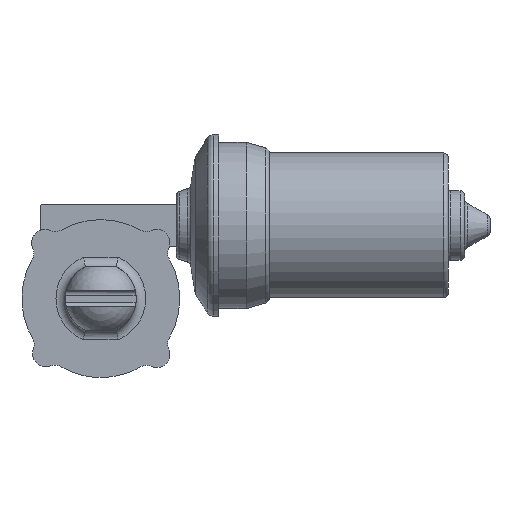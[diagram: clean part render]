
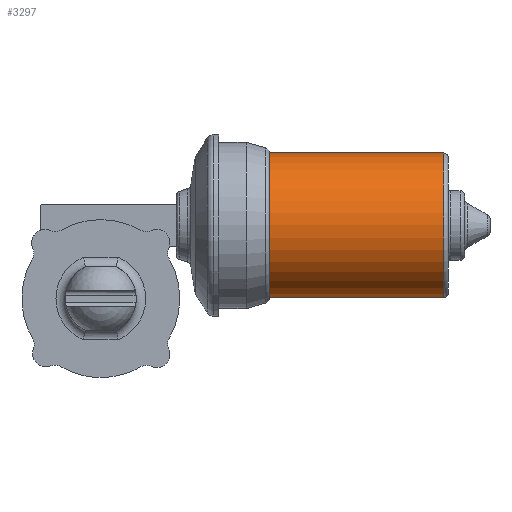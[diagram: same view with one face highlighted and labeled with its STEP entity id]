
A CAD part, left-side view. The second image highlights one B-rep face of the part: STEP entity #3297.
In plain terms, the highlighted cylindrical face has radius 30.75 mm (diameter 61.5 mm), a full revolution.
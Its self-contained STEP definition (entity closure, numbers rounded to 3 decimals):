
#190=CYLINDRICAL_SURFACE('',#3699,30.75);
#376=CIRCLE('',#3698,30.75);
#377=CIRCLE('',#3700,30.75);
#1290=ORIENTED_EDGE('',*,*,#1767,.F.);
#1291=ORIENTED_EDGE('',*,*,#1766,.T.);
#1766=EDGE_CURVE('',#2081,#2081,#376,.T.);
#1767=EDGE_CURVE('',#2082,#2082,#377,.T.);
#2081=VERTEX_POINT('',#5838);
#2082=VERTEX_POINT('',#5841);
#2754=EDGE_LOOP('',(#1290));
#2755=EDGE_LOOP('',(#1291));
#2991=FACE_BOUND('',#2754,.T.);
#2992=FACE_BOUND('',#2755,.T.);
#3297=ADVANCED_FACE('',(#2991,#2992),#190,.T.);
#3698=AXIS2_PLACEMENT_3D('',#5837,#4681,#4682);
#3699=AXIS2_PLACEMENT_3D('',#5839,#4683,#4684);
#3700=AXIS2_PLACEMENT_3D('',#5840,#4685,#4686);
#4681=DIRECTION('',(0.,-1.,0.));
#4682=DIRECTION('',(0.,0.,-1.));
#4683=DIRECTION('',(0.,-1.,0.));
#4684=DIRECTION('',(0.,0.,-1.));
#4685=DIRECTION('',(0.,-1.,0.));
#4686=DIRECTION('',(0.,0.,-1.));
#5837=CARTESIAN_POINT('',(0.,95.3,0.));
#5838=CARTESIAN_POINT('',(0.,95.3,-30.75));
#5839=CARTESIAN_POINT('',(0.,0.,0.));
#5840=CARTESIAN_POINT('',(0.,21.4,0.));
#5841=CARTESIAN_POINT('',(0.,21.4,-30.75));
